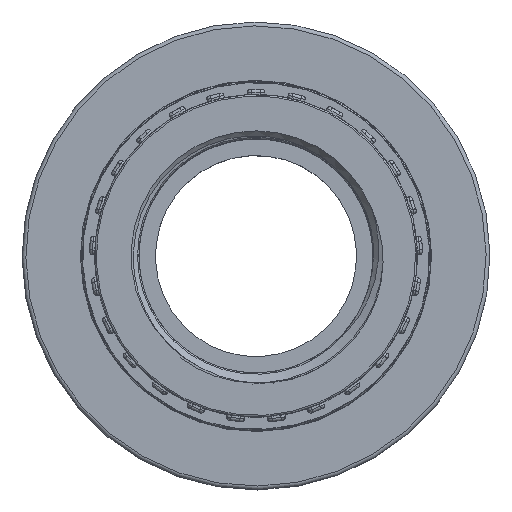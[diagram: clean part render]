
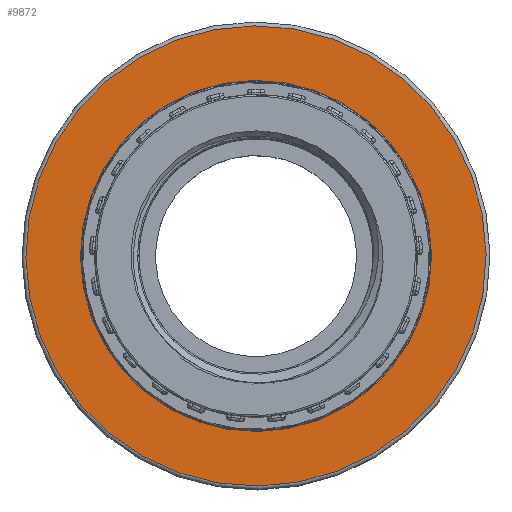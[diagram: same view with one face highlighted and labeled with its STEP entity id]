
A CAD part, top view. The second image highlights one B-rep face of the part: STEP entity #9872.
In plain terms, the highlighted planar face has unit normal (0, 0, 1).
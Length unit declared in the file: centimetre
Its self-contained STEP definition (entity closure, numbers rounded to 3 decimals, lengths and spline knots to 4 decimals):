
#368=FACE_BOUND('',#1393,.T.);
#824=FACE_OUTER_BOUND('',#1392,.T.);
#1392=EDGE_LOOP('',(#7517));
#1393=EDGE_LOOP('',(#7518));
#1982=CIRCLE('',#10690,2.975);
#1984=CIRCLE('',#10693,2.27);
#4152=VERTEX_POINT('',#21154);
#4154=VERTEX_POINT('',#21159);
#5330=EDGE_CURVE('',#4152,#4152,#1982,.T.);
#5332=EDGE_CURVE('',#4154,#4154,#1984,.T.);
#7517=ORIENTED_EDGE('',*,*,#5330,.F.);
#7518=ORIENTED_EDGE('',*,*,#5332,.T.);
#8918=PLANE('',#10692);
#9872=ADVANCED_FACE('',(#824,#368),#8918,.T.);
#10690=AXIS2_PLACEMENT_3D('',#21155,#12678,#12679);
#10692=AXIS2_PLACEMENT_3D('',#21158,#12682,#12683);
#10693=AXIS2_PLACEMENT_3D('',#21160,#12684,#12685);
#12678=DIRECTION('center_axis',(0.,0.,
-1.));
#12679=DIRECTION('ref_axis',(0.87,-0.493,0.));
#12682=DIRECTION('center_axis',(0.,0.,
1.));
#12683=DIRECTION('ref_axis',(-0.493,-0.87,0.));
#12684=DIRECTION('center_axis',(0.,0.,
-1.));
#12685=DIRECTION('ref_axis',(0.87,-0.493,0.));
#21154=CARTESIAN_POINT('',(-2.5875,1.4681,1.57));
#21155=CARTESIAN_POINT('Origin',(0.,0.,
1.57));
#21158=CARTESIAN_POINT('Origin',(-2.631,1.4928,1.57));
#21159=CARTESIAN_POINT('',(-1.9744,1.1202,1.57));
#21160=CARTESIAN_POINT('Origin',(0.,0.,
1.57));
